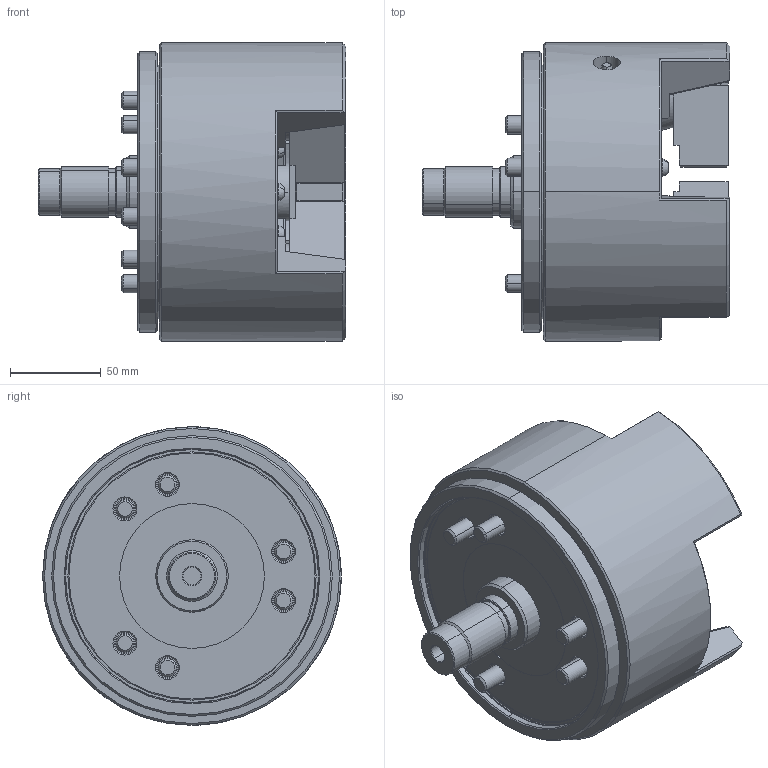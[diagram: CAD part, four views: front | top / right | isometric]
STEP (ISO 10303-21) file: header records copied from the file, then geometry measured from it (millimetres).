
FILE_DESCRIPTION (( 'STEP AP214' ), '1' );
FILE_NAME ('PU206_OC.STEP', '2019-10-18T08:42:51', ( '' ), ( '' ), 'SwSTEP 2.0', 'SolidWorks 2017', '' );
FILE_SCHEMA (( 'AUTOMOTIVE_DESIGN' ));
Length unit declared in the file: millimetre
Products named in the file (4): 結合; 0030110025; 61P332352; PU206_OC
Assembly tree (7 placements, depth 2):
  PU206_OC
    61P332352  x3
    0030110025  x3
    結合
Bounding box: 170 x 165 x 165 mm (x, y, z)
Volume: 1784638.5 mm3; surface area: 194538.4 mm2
Topology: 7 solids, 7 shells, 1095 faces, 2728 edges, 1709 vertices
Faces by surface type: plane 524, cone 209, cylinder 176, bspline 147, torus 39
Entity records: 35651 total; most frequent: CARTESIAN_POINT 12936, ORIENTED_EDGE 4948, DIRECTION 4229, EDGE_CURVE 2474, VERTEX_POINT 1571, AXIS2_PLACEMENT_3D 1458, VECTOR 1313, LINE 1313
